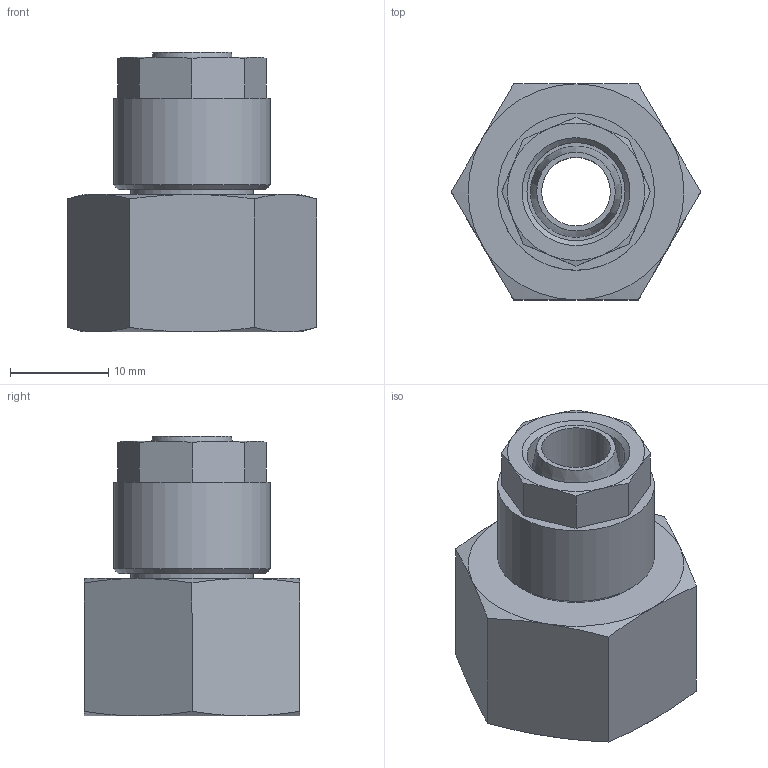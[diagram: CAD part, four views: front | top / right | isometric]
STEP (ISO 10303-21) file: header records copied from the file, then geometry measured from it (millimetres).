
FILE_DESCRIPTION(/* description */ (''),/* implementation_level */ '2;1');
FILE_NAME(/* name */ '10311_302_108_G38_26.06.17',/* time_stamp */ '2017-06-26T15:40:41+02:00',/* author */ (''),/* organization */ (''),/* preprocessor_version */ 'ST-DEVELOPER v16.5',/* originating_system */ 'HiCAD 2016 2102.2 Build 618',/* authorisation */ '');
FILE_SCHEMA (('AUTOMOTIVE_DESIGN { 1 0 10303 214 1 1 1 1 }'));
Length unit declared in the file: millimetre
Products named in the file (3): Root; 17007; R10311
Assembly tree (2 placements, depth 2):
  Root
    17007
    R10311
Bounding box: 25.4 x 22 x 28.5 mm (x, y, z)
Volume: 5632 mm3; surface area: 4537.8 mm2
Topology: 2 solids, 2 shells, 61 faces, 133 edges, 81 vertices
Faces by surface type: cone 29, plane 23, cylinder 8, torus 1
Full cylindrical faces by diameter (mm): 7 x1, 8.5 x1, 10 x1, 12.5 x1, 12.773 x1, 14 x1, 14.95 x1, 16 x1
Entity records: 2663 total; most frequent: DIRECTION 322, CARTESIAN_POINT 245, PRESENTATION_STYLE_ASSIGNMENT 216, COLOUR_RGB 215, DRAUGHTING_PRE_DEFINED_CURVE_FONT 214, CURVE_STYLE 214, OVER_RIDING_STYLED_ITEM 214, ORIENTED_EDGE 214
